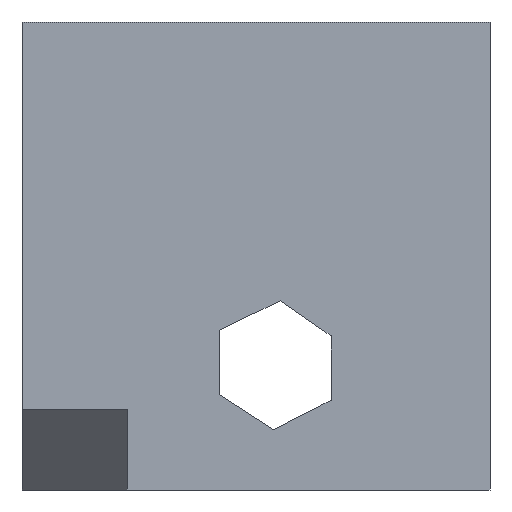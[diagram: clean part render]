
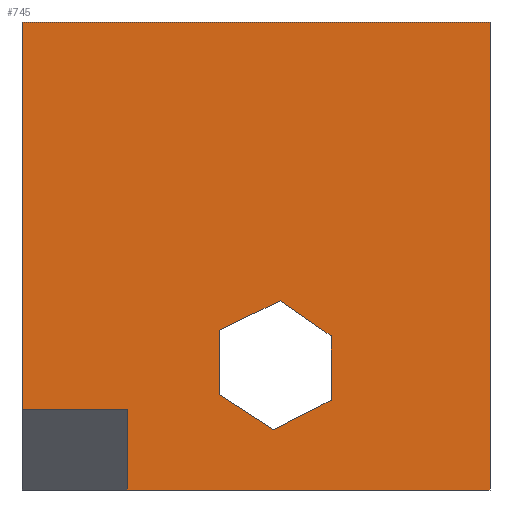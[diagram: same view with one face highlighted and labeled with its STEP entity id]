
A CAD part, front view. The second image highlights one B-rep face of the part: STEP entity #745.
In plain terms, the highlighted planar face has unit normal (0, -1, 0).
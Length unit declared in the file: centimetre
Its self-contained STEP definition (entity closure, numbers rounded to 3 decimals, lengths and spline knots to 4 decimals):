
#2 = DIRECTION ( 'NONE',  ( 1., 0., 0. ) ) ;
#6 = LINE ( 'NONE', #13, #748 ) ;
#7 = CARTESIAN_POINT ( 'NONE',  ( 660.3649, 0., 191.5339 ) ) ;
#13 = CARTESIAN_POINT ( 'NONE',  ( 551.7386, 0., 404.2932 ) ) ;
#27 = LINE ( 'NONE', #261, #441 ) ;
#31 = VERTEX_POINT ( 'NONE', #65 ) ;
#37 = VERTEX_POINT ( 'NONE', #545 ) ;
#46 = VECTOR ( 'NONE', #463, 100. ) ;
#47 = LINE ( 'NONE', #170, #322 ) ;
#61 = VECTOR ( 'NONE', #229, 100. ) ;
#63 = CARTESIAN_POINT ( 'NONE',  ( 537.5283, 0., 128.8185 ) ) ;
#65 = CARTESIAN_POINT ( 'NONE',  ( 421.7968, 0., 341.5777 ) ) ;
#68 = VERTEX_POINT ( 'NONE', #203 ) ;
#70 = LINE ( 'NONE', #420, #178 ) ;
#71 = DIRECTION ( 'NONE',  ( -0.891, 0., -0.455 ) ) ;
#80 = DIRECTION ( 'NONE',  ( 0., 1., 0. ) ) ;
#82 = FACE_BOUND ( 'NONE', #454, .T. ) ;
#85 = VECTOR ( 'NONE', #505, 100. ) ;
#109 = ORIENTED_EDGE ( 'NONE', *, *, #660, .T. ) ;
#111 = CARTESIAN_POINT ( 'NONE',  ( 0., 0., 172.0618 ) ) ;
#124 = EDGE_CURVE ( 'NONE', #725, #700, #607, .T. ) ;
#153 = LINE ( 'NONE', #495, #85 ) ;
#162 = AXIS2_PLACEMENT_3D ( 'NONE', #680, #80, #320 ) ;
#165 = VERTEX_POINT ( 'NONE', #442 ) ;
#170 = CARTESIAN_POINT ( 'NONE',  ( 0., 0., 1000. ) ) ;
#178 = VECTOR ( 'NONE', #2, 100. ) ;
#185 = ORIENTED_EDGE ( 'NONE', *, *, #384, .F. ) ;
#189 = VERTEX_POINT ( 'NONE', #706 ) ;
#203 = CARTESIAN_POINT ( 'NONE',  ( 660.3649, 0., 191.5339 ) ) ;
#212 = EDGE_CURVE ( 'NONE', #413, #768, #6, .T. ) ;
#215 = LINE ( 'NONE', #331, #416 ) ;
#229 = DIRECTION ( 'NONE',  ( -0.839, 0., 0.544 ) ) ;
#230 = LINE ( 'NONE', #699, #627 ) ;
#237 = VERTEX_POINT ( 'NONE', #595 ) ;
#245 = DIRECTION ( 'NONE',  ( 0.823, 0., -0.568 ) ) ;
#251 = LINE ( 'NONE', #539, #580 ) ;
#253 = EDGE_CURVE ( 'NONE', #523, #237, #70, .T. ) ;
#261 = CARTESIAN_POINT ( 'NONE',  ( 421.7968, 0., 341.5777 ) ) ;
#265 = ORIENTED_EDGE ( 'NONE', *, *, #335, .T. ) ;
#269 = CARTESIAN_POINT ( 'NONE',  ( 660.3649, 0., 329.2713 ) ) ;
#309 = ORIENTED_EDGE ( 'NONE', *, *, #617, .T. ) ;
#320 = DIRECTION ( 'NONE',  ( 0., 0., 1. ) ) ;
#322 = VECTOR ( 'NONE', #355, 100. ) ;
#325 = CARTESIAN_POINT ( 'NONE',  ( 224.7697, 0., 0. ) ) ;
#331 = CARTESIAN_POINT ( 'NONE',  ( 224.7697, 0., 172.0618 ) ) ;
#335 = EDGE_CURVE ( 'NONE', #523, #428, #47, .T. ) ;
#352 = CARTESIAN_POINT ( 'NONE',  ( 224.7697, 0., 172.0618 ) ) ;
#355 = DIRECTION ( 'NONE',  ( 0., 0., -1. ) ) ;
#356 = ORIENTED_EDGE ( 'NONE', *, *, #733, .T. ) ;
#370 = EDGE_CURVE ( 'NONE', #725, #189, #766, .T. ) ;
#384 = EDGE_CURVE ( 'NONE', #237, #700, #230, .T. ) ;
#400 = ORIENTED_EDGE ( 'NONE', *, *, #370, .F. ) ;
#403 = EDGE_CURVE ( 'NONE', #189, #428, #215, .T. ) ;
#406 = DIRECTION ( 'NONE',  ( 0., 0., -1. ) ) ;
#410 = ORIENTED_EDGE ( 'NONE', *, *, #212, .T. ) ;
#412 = LINE ( 'NONE', #7, #687 ) ;
#413 = VERTEX_POINT ( 'NONE', #575 ) ;
#415 = LINE ( 'NONE', #63, #61 ) ;
#416 = VECTOR ( 'NONE', #712, 100. ) ;
#420 = CARTESIAN_POINT ( 'NONE',  ( 0., 0., 1000. ) ) ;
#428 = VERTEX_POINT ( 'NONE', #111 ) ;
#441 = VECTOR ( 'NONE', #499, 100. ) ;
#442 = CARTESIAN_POINT ( 'NONE',  ( 421.7968, 0., 203.8404 ) ) ;
#454 = EDGE_LOOP ( 'NONE', ( #410, #309, #464, #109, #356, #630 ) ) ;
#463 = DIRECTION ( 'NONE',  ( 0., 0., 1. ) ) ;
#464 = ORIENTED_EDGE ( 'NONE', *, *, #621, .T. ) ;
#495 = CARTESIAN_POINT ( 'NONE',  ( 421.7968, 0., 203.8404 ) ) ;
#499 = DIRECTION ( 'NONE',  ( 0.901, 0., 0.435 ) ) ;
#501 = ORIENTED_EDGE ( 'NONE', *, *, #124, .T. ) ;
#505 = DIRECTION ( 'NONE',  ( 0., 0., 1. ) ) ;
#519 = ORIENTED_EDGE ( 'NONE', *, *, #403, .F. ) ;
#523 = VERTEX_POINT ( 'NONE', #568 ) ;
#539 = CARTESIAN_POINT ( 'NONE',  ( 660.3649, 0., 329.2713 ) ) ;
#545 = CARTESIAN_POINT ( 'NONE',  ( 537.5283, 0., 128.8185 ) ) ;
#550 = EDGE_LOOP ( 'NONE', ( #265, #519, #400, #501, #185, #762 ) ) ;
#561 = FACE_OUTER_BOUND ( 'NONE', #550, .T. ) ;
#568 = CARTESIAN_POINT ( 'NONE',  ( 0., 0., 1000. ) ) ;
#575 = CARTESIAN_POINT ( 'NONE',  ( 551.7386, 0., 404.2932 ) ) ;
#580 = VECTOR ( 'NONE', #667, 100. ) ;
#595 = CARTESIAN_POINT ( 'NONE',  ( 1000., 0., 1000. ) ) ;
#607 = LINE ( 'NONE', #732, #726 ) ;
#617 = EDGE_CURVE ( 'NONE', #768, #68, #251, .T. ) ;
#621 = EDGE_CURVE ( 'NONE', #68, #37, #412, .T. ) ;
#627 = VECTOR ( 'NONE', #406, 100. ) ;
#630 = ORIENTED_EDGE ( 'NONE', *, *, #764, .T. ) ;
#660 = EDGE_CURVE ( 'NONE', #37, #165, #415, .T. ) ;
#667 = DIRECTION ( 'NONE',  ( 0., 0., -1. ) ) ;
#676 = PLANE ( 'NONE',  #162 ) ;
#679 = DIRECTION ( 'NONE',  ( 1., 0., 0. ) ) ;
#680 = CARTESIAN_POINT ( 'NONE',  ( 0., 0., 1000. ) ) ;
#687 = VECTOR ( 'NONE', #71, 100. ) ;
#699 = CARTESIAN_POINT ( 'NONE',  ( 1000., 0., 1000. ) ) ;
#700 = VERTEX_POINT ( 'NONE', #744 ) ;
#706 = CARTESIAN_POINT ( 'NONE',  ( 224.7697, 0., 172.0618 ) ) ;
#712 = DIRECTION ( 'NONE',  ( -1., 0., 0. ) ) ;
#725 = VERTEX_POINT ( 'NONE', #325 ) ;
#726 = VECTOR ( 'NONE', #679, 100. ) ;
#732 = CARTESIAN_POINT ( 'NONE',  ( 0., 0., 0. ) ) ;
#733 = EDGE_CURVE ( 'NONE', #165, #31, #153, .T. ) ;
#744 = CARTESIAN_POINT ( 'NONE',  ( 1000., 0., 0. ) ) ;
#745 = ADVANCED_FACE ( 'NONE', ( #82, #561 ), #676, .F. ) ;
#748 = VECTOR ( 'NONE', #245, 100. ) ;
#762 = ORIENTED_EDGE ( 'NONE', *, *, #253, .F. ) ;
#764 = EDGE_CURVE ( 'NONE', #31, #413, #27, .T. ) ;
#766 = LINE ( 'NONE', #352, #46 ) ;
#768 = VERTEX_POINT ( 'NONE', #269 ) ;
